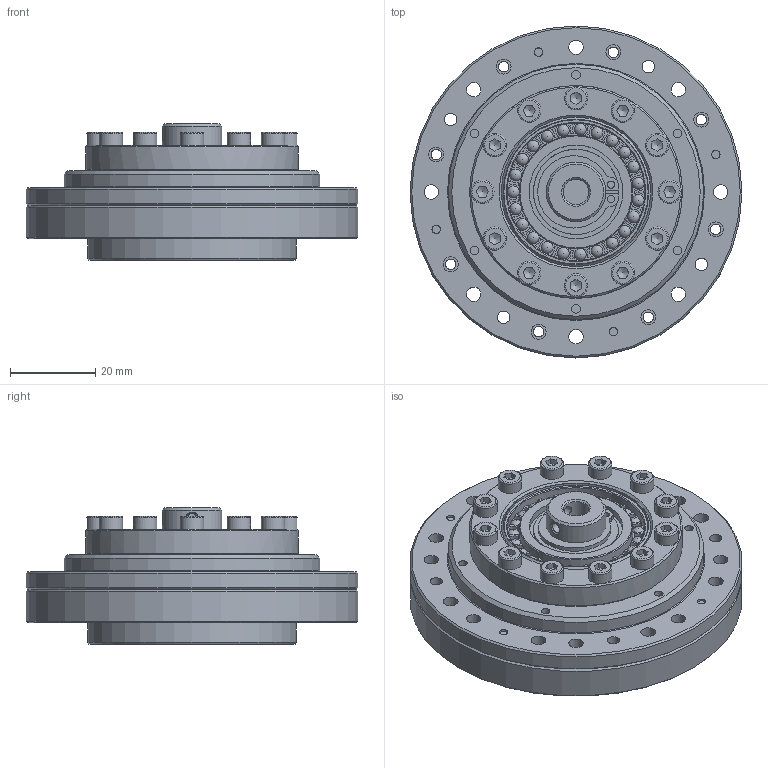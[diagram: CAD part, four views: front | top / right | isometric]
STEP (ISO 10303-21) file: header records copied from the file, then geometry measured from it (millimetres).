
FILE_DESCRIPTION(/* description */ (''),/* implementation_level */ '2;1');
FILE_NAME(/* name */ 'C:\Users\yin210\Desktop\CPU\14\DSC-14-PO-M.stp',/* time_stamp */ '2022-05-20T15:02:19+08:00',/* author */ ('yin210'),/* organization */ (''),/* preprocessor_version */ 'ST-DEVELOPER v15.2',/* originating_system */ 'Autodesk Inventor 2014',/* authorisation */ '');
FILE_SCHEMA (('AUTOMOTIVE_DESIGN { 1 0 10303 214 3 1 1 }'));
Length unit declared in the file: millimetre
Products named in the file (1): DSC-14-PO-M
Bounding box: 78 x 78 x 32 mm (x, y, z)
Volume: 77958.8 mm3; surface area: 26036.8 mm2
Topology: 1 solids, 14 shells, 669 faces, 1600 edges, 1047 vertices
Faces by surface type: plane 287, cylinder 239, cone 75, torus 43, sphere 23, bspline 2
Full cylindrical faces by diameter (mm): 1.7 x2, 2 x4, 2.013 x10, 2.459 x30, 2.5 x8, 2.9 x8, 3.4 x8, 3.5 x8, 4.5 x4, 5.5 x28, 6 x1, 8 x1, 11 x2, 13.4 x1, 14 x2, 14.1 x1, 20 x1, 22 x1, 24.5 x1, 25 x1, 26.71 x1, 30 x1, 32.31 x1, 33.87 x1, 36 x1, 49 x1, 50 x1, 60 x1, 78 x2
Entity records: 17906 total; most frequent: CARTESIAN_POINT 3558, DIRECTION 2964, ORIENTED_EDGE 2342, AXIS2_PLACEMENT_3D 1279, EDGE_CURVE 1171, EDGE_LOOP 1094, VERTEX_POINT 889, ADVANCED_FACE 669
